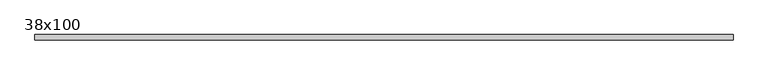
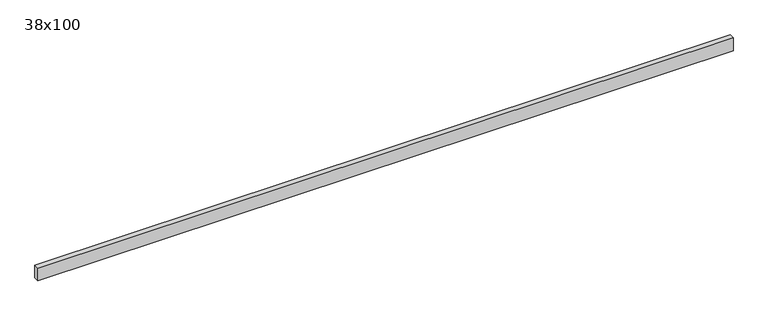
"""IFC4 building model written with IfcOpenShell, lengths in millimetres: beam geometry, Poutre - Bois de construction de dimensions courantes : 38x100."""

from ifc_helpers import new_model, si_unit, frame, origin, place, context, project, spatial, polyline, outline, extrude, source, transform, mapped, element, save


def beam_38x100_03a98478(model_context):
    return source(origin(), model_context, "Body", "SweptSolid", [
        extrude(outline(polyline([(2475.5, 19.05), (2475.5, -19.05), (-2635.5, -19.05), (-2635.5, 19.05), (2475.5, 19.05)])), frame((0.0, 0.0, -50.0), z_axis=(0.0, 0.0, 1.0), x_axis=(1.0, 0.0, 0.0)), (0.0, 0.0, 1.0), 100.0),
    ])


if __name__ == "__main__":
    model = new_model("IFC4")
    model_context = context("Model", 3, world=origin())
    ifc_project = project(units=[si_unit("LENGTHUNIT", "METRE", prefix="MILLI")], contexts=[model_context])
    site = spatial("IfcSite", under=ifc_project)
    building = spatial("IfcBuilding", under=site)
    placement = place(None, origin())
    beam_38x100_shape = beam_38x100_03a98478(model_context)
    element("IfcBeam", 1, ObjectType="Poutre - Bois de construction de dimensions courantes : 38x100", at=placement, inside=building, context=model_context, shape_type="MappedRepresentation", body=[
        mapped(beam_38x100_shape, transform((0.0, 0.0, 0.0), x_axis=(1.0, 0.0, 0.0), y_axis=(0.0, 1.0, 0.0), z_axis=(0.0, 0.0, 1.0))),
    ])
    save(model, "model.ifc")
